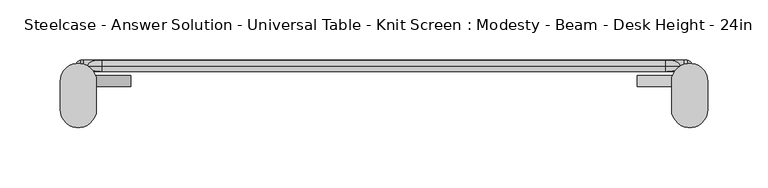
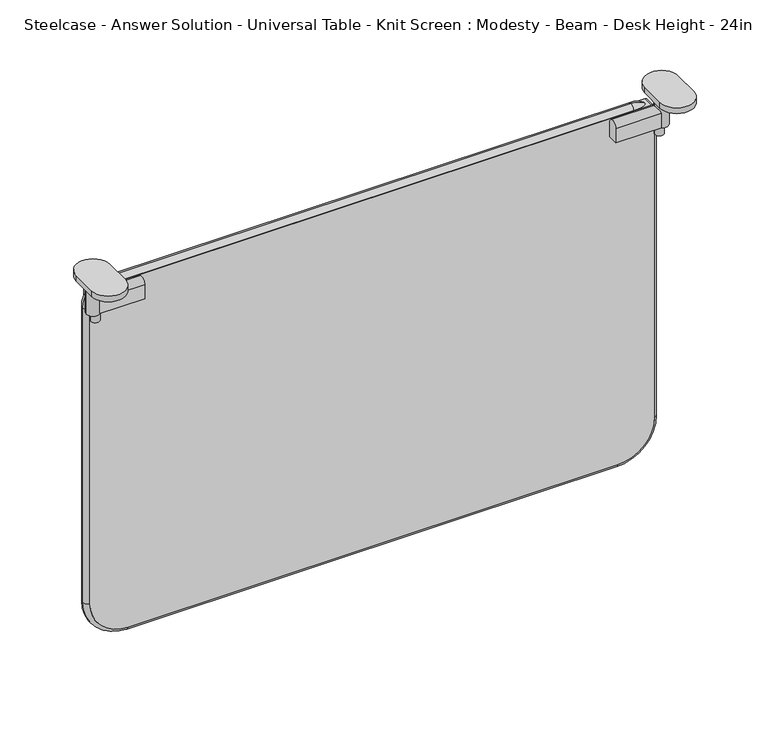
"""IFC4 building model written with IfcOpenShell, lengths in millimetres: furniture geometry, Steelcase - Answer Solution - Universal Table - Knit Screen : Modesty - Beam - Desk Height - 24in."""

from ifc_helpers import new_model, si_unit, point, frame, frame_2d, origin, place, context, project, spatial, polyline, circle_curve, ellipse_curve, trimmed, segment, composite_curve, outline, extrude, source, transform, mapped, element, save
from ifc_brep_helpers import plane_surface, cylinder_surface, revolved_surface, advanced_brep


def steelcase_answer_solution_universal_table_knit_screen_600d1019(model_context):
    return source(origin(), model_context, "Body", "SolidModel", [
        extrude(outline(composite_curve([segment(polyline([(-29.128946, 557.1716837), (-29.128946, 570.5329841)]), True, "CONTINUOUS"), segment(trimmed(circle_curve(frame_2d((-24.4350465, 570.5329841)), 4.6938995), [point((-29.128946, 570.5329841))], [point((-19.7411469, 570.5329841))], False, "CARTESIAN"), True, "CONTINUOUS"), segment(polyline([(-19.7411469, 570.5329841), (-19.7411469, 557.1716837), (-29.128946, 557.1716837)]), True, "CONTINUOUS")], self_intersect=False)), frame((511.8167228, 0.0, 0.0), z_axis=(1.0, 0.0, 0.0), x_axis=(0.0, 1.0, 0.0)), (0.0, 0.0, 1.0), 43.5285515),
        extrude(outline(composite_curve([segment(trimmed(circle_curve(frame_2d((553.4143327, -24.4352196)), 3.96875), [point((557.3830827, -24.4352196))], [point((549.4455827, -24.4352196))], False, "CARTESIAN"), True, "CONTINUOUS"), segment(trimmed(circle_curve(frame_2d((553.4143327, -24.4352196)), 3.96875), [point((549.4455827, -24.4352196))], [point((557.3830827, -24.4352196))], False, "CARTESIAN"), True, "CONTINUOUS")], self_intersect=False)), frame((0.0, 0.0, 549.0915626), z_axis=(0.0, 0.0, 1.0), x_axis=(1.0, 0.0, 0.0)), (0.0, 0.0, 1.0), 8.0801211),
        extrude(outline(composite_curve([segment(trimmed(circle_curve(frame_2d((555.3452743, -24.4352196)), 5.8800133), [point((561.2252876, -24.4352196))], [point((549.465261, -24.4352196))], False, "CARTESIAN"), True, "CONTINUOUS"), segment(trimmed(circle_curve(frame_2d((555.3452743, -24.4352196)), 5.8800133), [point((549.465261, -24.4352196))], [point((561.2252876, -24.4352196))], False, "CARTESIAN"), True, "CONTINUOUS")], self_intersect=False)), frame((0.0, 0.0, 557.1716837), z_axis=(0.0, 0.0, 1.0), x_axis=(1.0, 0.0, 0.0)), (0.0, 0.0, 1.0), 34.3007611),
        extrude(outline(composite_curve([segment(polyline([(570.401332, -24.6349615), (570.401332, -48.0866189)]), True, "CONTINUOUS"), segment(trimmed(circle_curve(frame_2d((555.345565, -48.0866189)), 15.0557671), [point((570.401332, -48.0866189))], [point((540.2897979, -48.0866189))], False, "CARTESIAN"), True, "CONTINUOUS"), segment(polyline([(540.2897979, -48.0866189), (540.2897979, -24.6349615)]), True, "CONTINUOUS"), segment(trimmed(circle_curve(frame_2d((555.345565, -24.6349615)), 15.0557671), [point((540.2897979, -24.6349615))], [point((570.401332, -24.6349615))], False, "CARTESIAN"), True, "CONTINUOUS")], self_intersect=False)), frame((0.0, 0.0, 591.4724448), z_axis=(0.0, 0.0, 1.0), x_axis=(1.0, 0.0, 0.0)), (0.0, 0.0, 1.0), 5.4275552),
        extrude(outline(composite_curve([segment(polyline([(-29.128946, 557.1716837), (-29.128946, 570.5329841)]), True, "CONTINUOUS"), segment(trimmed(circle_curve(frame_2d((-24.4350465, 570.5329841)), 4.6938995), [point((-29.128946, 570.5329841))], [point((-19.7411469, 570.5329841))], False, "CARTESIAN"), True, "CONTINUOUS"), segment(polyline([(-19.7411469, 570.5329841), (-19.7411469, 557.1716837), (-29.128946, 557.1716837)]), True, "CONTINUOUS")], self_intersect=False)), frame((47.6108911, 0.0, 0.0), z_axis=(1.0, 0.0, 0.0), x_axis=(0.0, 1.0, 0.0)), (0.0, 0.0, 1.0), 43.5285515),
        extrude(outline(composite_curve([segment(trimmed(circle_curve(frame_2d((49.5418327, -24.4352196)), 3.96875), [point((45.5730827, -24.4352196))], [point((53.5105827, -24.4352196))], False, "CARTESIAN"), True, "CONTINUOUS"), segment(trimmed(circle_curve(frame_2d((49.5418327, -24.4352196)), 3.96875), [point((53.5105827, -24.4352196))], [point((45.5730827, -24.4352196))], False, "CARTESIAN"), True, "CONTINUOUS")], self_intersect=False)), frame((0.0, 0.0, 549.0915626), z_axis=(0.0, 0.0, 1.0), x_axis=(1.0, 0.0, 0.0)), (0.0, 0.0, 1.0), 8.0801211),
        extrude(outline(composite_curve([segment(trimmed(circle_curve(frame_2d((47.6108911, -24.4352196)), 5.8800133), [point((41.7308778, -24.4352196))], [point((53.4909043, -24.4352196))], False, "CARTESIAN"), True, "CONTINUOUS"), segment(trimmed(circle_curve(frame_2d((47.6108911, -24.4352196)), 5.8800133), [point((53.4909043, -24.4352196))], [point((41.7308778, -24.4352196))], False, "CARTESIAN"), True, "CONTINUOUS")], self_intersect=False)), frame((0.0, 0.0, 557.1716837), z_axis=(0.0, 0.0, 1.0), x_axis=(1.0, 0.0, 0.0)), (0.0, 0.0, 1.0), 34.3007611),
        extrude(outline(composite_curve([segment(trimmed(circle_curve(frame_2d((47.6106004, -24.6349615)), 15.0557671), [point((32.5548333, -24.6349615))], [point((62.6663674, -24.6349615))], False, "CARTESIAN"), True, "CONTINUOUS"), segment(polyline([(62.6663674, -24.6349615), (62.6663674, -48.0866189)]), True, "CONTINUOUS"), segment(trimmed(circle_curve(frame_2d((47.6106004, -48.0866189)), 15.0557671), [point((62.6663674, -48.0866189))], [point((32.5548333, -48.0866189))], False, "CARTESIAN"), True, "CONTINUOUS"), segment(polyline([(32.5548333, -48.0866189), (32.5548333, -24.6349615)]), True, "CONTINUOUS")], self_intersect=False)), frame((0.0, 0.0, 591.4724448), z_axis=(0.0, 0.0, 1.0), x_axis=(1.0, 0.0, 0.0)), (0.0, 0.0, 1.0), 5.4275552),
        extrude(outline(composite_curve([segment(trimmed(circle_curve(frame_2d((275.3734529, 520.3969049)), 33.0004615), [point((242.3729913, 520.3969049))], [point((275.3734529, 553.3973664))], False, "CARTESIAN"), True, "CONTINUOUS"), segment(polyline([(275.3734529, 553.3973664), (568.7143507, 553.3973664)]), True, "CONTINUOUS"), segment(trimmed(circle_curve(frame_2d((568.7143507, 550.5924906)), 2.8048758), [point((568.7143507, 553.3973664))], [point((571.5192266, 550.5924906))], False, "CARTESIAN"), True, "CONTINUOUS"), segment(polyline([(571.5192266, 550.5924906), (571.5192266, 51.8743664)]), True, "CONTINUOUS"), segment(trimmed(circle_curve(frame_2d((569.2036591, 51.8743664)), 2.3155675), [point((571.5192266, 51.8743664))], [point((569.2036591, 49.5587989))], False, "CARTESIAN"), True, "CONTINUOUS"), segment(polyline([(569.2036591, 49.5587989), (276.2900738, 49.5587989)]), True, "CONTINUOUS"), segment(trimmed(circle_curve(frame_2d((276.2900738, 83.4758814)), 33.9170825), [point((276.2900738, 49.5587989))], [point((242.3729913, 83.4758814))], False, "CARTESIAN"), True, "CONTINUOUS"), segment(polyline([(242.3729913, 83.4758814), (242.3729913, 520.3969049)]), True, "CONTINUOUS")], self_intersect=False)), frame((0.0, -16.5783031, 0.0), z_axis=(0.0, 1.0, 0.0), x_axis=(0.0, 0.0, 1.0)), (0.0, 0.0, 1.0), 9.6878455),
        advanced_brep(
        [(45.5730839, -11.7343804, 554.0906591), (66.9873664, -11.7343804, 575.5049416), (66.9873664, -6.8904577, 571.5192266), (49.5587989, -6.8904577, 554.0906591), (49.5587989, -16.5783031, 554.0906591), (66.9873664, -16.5783031, 571.5192266), (49.5587989, -6.8904577, 276.2900738), (45.5730839, -11.7343804, 276.2900738), (49.5587989, -16.5783031, 276.2900738), (83.4758814, -11.7343804, 238.3872763), (83.4758814, -6.8904577, 242.3729913), (83.4758814, -16.5783031, 242.3729913), (520.3969049, -6.8904577, 242.3729913), (520.3969049, -11.7343804, 238.3872763), (520.3969049, -16.5783031, 242.3729913), (557.3830815, -11.7343804, 275.3734529), (553.3973664, -6.8904577, 275.3734529), (553.3973664, -16.5783031, 275.3734529), (553.3973664, -6.8904577, 553.6013507), (557.3830815, -11.7343804, 553.6013507), (553.3973664, -16.5783031, 553.6013507), (535.4794906, -11.7343804, 575.5049416), (535.4794906, -6.8904577, 571.5192266), (535.4794906, -16.5783031, 571.5192266)],
        [
            (0, 1, circle_curve(frame((66.9873664, -11.7343804, 554.0906591), z_axis=(0.0, 1.0, 0.0), x_axis=(0.0, 0.0, 1.0)), 21.4142825)),
            (1, 2, circle_curve(frame((66.9873664, -11.7343804, 570.5686238), z_axis=(-1.0, 0.0, 0.0), x_axis=(0.0, 0.0, 1.0)), 4.9363178)),
            (2, 3, circle_curve(frame((66.9873664, -6.8904577, 554.0906591), z_axis=(0.0, -1.0, 0.0), x_axis=(0.0, 0.0, 1.0)), 17.4285675)),
            (3, 0, circle_curve(frame((50.5094016, -11.7343804, 554.0906591), z_axis=(0.0, 0.0, 1.0), x_axis=(-1.0, 0.0, 0.0)), 4.9363178)),
            (4, 5, circle_curve(frame((66.9873664, -16.5783031, 554.0906591), z_axis=(0.0, 1.0, 0.0), x_axis=(0.0, 0.0, 1.0)), 17.4285675)),
            (5, 1, circle_curve(frame((66.9873664, -11.7343804, 570.5686238), z_axis=(-1.0, 0.0, 0.0), x_axis=(0.0, 0.0, 1.0)), 4.9363178)),
            (0, 4, circle_curve(frame((50.5094016, -11.7343804, 554.0906591), z_axis=(0.0, 0.0, 1.0), x_axis=(-1.0, 0.0, 0.0)), 4.9363178)),
            (2, 5),
            (4, 3),
            (3, 6),
            (6, 7, circle_curve(frame((50.5094016, -11.7343804, 276.2900738), z_axis=(0.0, 0.0, 1.0), x_axis=(-1.0, 0.0, 0.0)), 4.9363178)),
            (7, 0),
            (7, 8, circle_curve(frame((50.5094016, -11.7343804, 276.2900738), z_axis=(0.0, 0.0, 1.0), x_axis=(-1.0, 0.0, 0.0)), 4.9363178)),
            (8, 4),
            (8, 6),
            (9, 7, circle_curve(frame((83.4758814, -11.7343804, 276.2900738), z_axis=(0.0, 1.0, 0.0), x_axis=(-1.0, 0.0, 0.0)), 37.9027975)),
            (6, 10, circle_curve(frame((83.4758814, -6.8904577, 276.2900738), z_axis=(0.0, -1.0, 0.0), x_axis=(-1.0, 0.0, 0.0)), 33.9170825)),
            (10, 9, circle_curve(frame((83.4758814, -11.7343804, 243.323594), z_axis=(-1.0, 0.0, 0.0), x_axis=(0.0, 0.0, -1.0)), 4.9363178)),
            (11, 8, circle_curve(frame((83.4758814, -16.5783031, 276.2900738), z_axis=(0.0, 1.0, 0.0), x_axis=(-1.0, 0.0, 0.0)), 33.9170825)),
            (9, 11, circle_curve(frame((83.4758814, -11.7343804, 243.323594), z_axis=(-1.0, 0.0, 0.0), x_axis=(0.0, 0.0, -1.0)), 4.9363178)),
            (11, 10),
            (10, 12),
            (12, 13, circle_curve(frame((520.3969049, -11.7343804, 243.323594), z_axis=(-1.0, 0.0, 0.0), x_axis=(0.0, 0.0, -1.0)), 4.9363178)),
            (13, 9),
            (13, 14, circle_curve(frame((520.3969049, -11.7343804, 243.323594), z_axis=(-1.0, 0.0, 0.0), x_axis=(0.0, 0.0, -1.0)), 4.9363178)),
            (14, 11),
            (14, 12),
            (15, 13, circle_curve(frame((520.3969049, -11.7343804, 275.3734529), z_axis=(0.0, 1.0, 0.0), x_axis=(0.0, 0.0, -1.0)), 36.9861766)),
            (12, 16, circle_curve(frame((520.3969049, -6.8904577, 275.3734529), z_axis=(0.0, -1.0, 0.0), x_axis=(0.0, 0.0, -1.0)), 33.0004615)),
            (16, 15, circle_curve(frame((552.4467637, -11.7343804, 275.3734529), z_axis=(0.0, 0.0, -1.0), x_axis=(1.0, 0.0, 0.0)), 4.9363178)),
            (17, 14, circle_curve(frame((520.3969049, -16.5783031, 275.3734529), z_axis=(0.0, 1.0, 0.0), x_axis=(0.0, 0.0, -1.0)), 33.0004615)),
            (15, 17, circle_curve(frame((552.4467637, -11.7343804, 275.3734529), z_axis=(0.0, 0.0, -1.0), x_axis=(1.0, 0.0, 0.0)), 4.9363178)),
            (17, 16),
            (16, 18),
            (18, 19, circle_curve(frame((552.4467637, -11.7343804, 553.6013507), z_axis=(0.0, 0.0, -1.0), x_axis=(1.0, 0.0, 0.0)), 4.9363178)),
            (19, 15),
            (19, 20, circle_curve(frame((552.4467637, -11.7343804, 553.6013507), z_axis=(0.0, 0.0, -1.0), x_axis=(1.0, 0.0, 0.0)), 4.9363178)),
            (20, 17),
            (20, 18),
            (21, 19, circle_curve(frame((535.4794906, -11.7343804, 553.6013507), z_axis=(0.0, 1.0, 0.0), x_axis=(1.0, 0.0, 0.0)), 21.9035909)),
            (18, 22, circle_curve(frame((535.4794906, -6.8904577, 553.6013507), z_axis=(0.0, -1.0, 0.0), x_axis=(1.0, 0.0, 0.0)), 17.9178758)),
            (22, 21, circle_curve(frame((535.4794906, -11.7343804, 570.5686238), z_axis=(1.0, 0.0, 0.0), x_axis=(0.0, 0.0, 1.0)), 4.9363178)),
            (23, 20, circle_curve(frame((535.4794906, -16.5783031, 553.6013507), z_axis=(0.0, 1.0, 0.0), x_axis=(1.0, 0.0, 0.0)), 17.9178758)),
            (21, 23, circle_curve(frame((535.4794906, -11.7343804, 570.5686238), z_axis=(1.0, 0.0, 0.0), x_axis=(0.0, 0.0, 1.0)), 4.9363178)),
            (23, 22),
            (22, 2),
            (1, 21),
            (5, 23),
        ],
        [
            revolved_surface(trimmed(ellipse_curve(frame((66.9873664, -11.7343804, 570.5686238), z_axis=(1.0, 0.0, 0.0), x_axis=(0.0, 0.0, 1.0)), 4.9363178, 4.9363178), [point((66.9873664, -6.8904577, 571.5192266))], [point((66.9873664, -11.7343804, 575.5049416))], True, "CARTESIAN"), (66.9873664, -11.7343804, 554.0906591), (0.0, -1.0, 0.0)),
            revolved_surface(trimmed(ellipse_curve(frame((66.9873664, -11.7343804, 570.5686238), z_axis=(1.0, 0.0, 0.0), x_axis=(0.0, 0.0, 1.0)), 4.9363178, 4.9363178), [point((66.9873664, -11.7343804, 575.5049416))], [point((66.9873664, -16.5783031, 571.5192266))], True, "CARTESIAN"), (66.9873664, -11.7343804, 554.0906591), (0.0, -1.0, 0.0)),
            revolved_surface(polyline([(66.9873664, -16.5783031, 571.5192266), (66.9873664, -6.8904577, 571.5192266)]), (66.9873664, -11.7343804, 554.0906591), (0.0, -1.0, 0.0)),
            cylinder_surface(frame((50.5094016, -11.7343804, 554.0906591), z_axis=(0.0, 0.0, 1.0), x_axis=(-1.0, 0.0, 0.0)), 4.9363178),
            plane_surface(frame((49.5587989, -16.5783031, 554.0906591), z_axis=(1.0, 0.0, 0.0), x_axis=(0.0, 0.0, -1.0))),
            revolved_surface(trimmed(ellipse_curve(frame((50.5094016, -11.7343804, 276.2900738), z_axis=(0.0, 0.0, 1.0), x_axis=(-1.0, 0.0, 0.0)), 4.9363178, 4.9363178), [point((49.5587989, -6.8904577, 276.2900738))], [point((45.5730839, -11.7343804, 276.2900738))], True, "CARTESIAN"), (83.4758814, -11.7343804, 276.2900738), (0.0, -1.0, 0.0)),
            revolved_surface(trimmed(ellipse_curve(frame((50.5094016, -11.7343804, 276.2900738), z_axis=(0.0, 0.0, 1.0), x_axis=(-1.0, 0.0, 0.0)), 4.9363178, 4.9363178), [point((45.5730839, -11.7343804, 276.2900738))], [point((49.5587989, -16.5783031, 276.2900738))], True, "CARTESIAN"), (83.4758814, -11.7343804, 276.2900738), (0.0, -1.0, 0.0)),
            revolved_surface(polyline([(49.558798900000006, -16.5783031, 276.2900738), (49.558798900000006, -6.8904577, 276.2900738)]), (83.4758814, -11.7343804, 276.2900738), (0.0, -1.0, 0.0)),
            cylinder_surface(frame((83.4758814, -11.7343804, 243.323594), z_axis=(-1.0, 0.0, 0.0), x_axis=(0.0, 0.0, -1.0)), 4.9363178),
            plane_surface(frame((83.4758814, -16.5783031, 242.3729913), z_axis=(0.0, 0.0, 1.0), x_axis=(1.0, 0.0, 0.0))),
            revolved_surface(trimmed(ellipse_curve(frame((520.3969049, -11.7343804, 243.323594), z_axis=(-1.0, 0.0, 0.0), x_axis=(0.0, 0.0, -1.0)), 4.9363178, 4.9363178), [point((520.3969049, -6.8904577, 242.3729913))], [point((520.3969049, -11.7343804, 238.3872763))], True, "CARTESIAN"), (520.3969049, -11.7343804, 275.3734529), (0.0, -1.0, 0.0)),
            revolved_surface(trimmed(ellipse_curve(frame((520.3969049, -11.7343804, 243.323594), z_axis=(-1.0, 0.0, 0.0), x_axis=(0.0, 0.0, -1.0)), 4.9363178, 4.9363178), [point((520.3969049, -11.7343804, 238.3872763))], [point((520.3969049, -16.5783031, 242.3729913))], True, "CARTESIAN"), (520.3969049, -11.7343804, 275.3734529), (0.0, -1.0, 0.0)),
            revolved_surface(polyline([(520.3969049, -16.5783031, 242.37299140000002), (520.3969049, -6.8904577, 242.37299140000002)]), (520.3969049, -11.7343804, 275.3734529), (0.0, -1.0, 0.0)),
            cylinder_surface(frame((552.4467637, -11.7343804, 275.3734529), z_axis=(0.0, 0.0, -1.0), x_axis=(1.0, 0.0, 0.0)), 4.9363178),
            plane_surface(frame((553.3973664, -16.5783031, 275.3734529), z_axis=(-1.0, 0.0, 0.0), x_axis=(0.0, 0.0, 1.0))),
            revolved_surface(trimmed(ellipse_curve(frame((552.4467637, -11.7343804, 553.6013507), z_axis=(0.0, 0.0, -1.0), x_axis=(1.0, 0.0, 0.0)), 4.9363178, 4.9363178), [point((553.3973664, -6.8904577, 553.6013507))], [point((557.3830815, -11.7343804, 553.6013507))], True, "CARTESIAN"), (535.4794906, -11.7343804, 553.6013507), (0.0, -1.0, 0.0)),
            revolved_surface(trimmed(ellipse_curve(frame((552.4467637, -11.7343804, 553.6013507), z_axis=(0.0, 0.0, -1.0), x_axis=(1.0, 0.0, 0.0)), 4.9363178, 4.9363178), [point((557.3830815, -11.7343804, 553.6013507))], [point((553.3973664, -16.5783031, 553.6013507))], True, "CARTESIAN"), (535.4794906, -11.7343804, 553.6013507), (0.0, -1.0, 0.0)),
            revolved_surface(polyline([(553.3973664, -16.5783031, 553.6013507), (553.3973664, -6.8904577, 553.6013507)]), (535.4794906, -11.7343804, 553.6013507), (0.0, -1.0, 0.0)),
            cylinder_surface(frame((535.4794906, -11.7343804, 570.5686238), z_axis=(1.0, 0.0, 0.0), x_axis=(0.0, 0.0, 1.0)), 4.9363178),
            plane_surface(frame((535.4794906, -16.5783031, 571.5192266), z_axis=(0.0, 0.0, -1.0), x_axis=(-1.0, 0.0, 0.0))),
        ],
        [
            (0, [[1, 2, 3, 4]]),
            (1, [[5, 6, -1, 7]]),
            (2, [[-3, 8, -5, 9]]),
            (3, [[-4, 10, 11, 12]]),
            (3, [[-7, -12, 13, 14]]),
            (4, [[-9, -14, 15, -10]]),
            (5, [[16, -11, 17, 18]]),
            (6, [[19, -13, -16, 20]]),
            (7, [[-17, -15, -19, 21]]),
            (8, [[-18, 22, 23, 24]]),
            (8, [[-20, -24, 25, 26]]),
            (9, [[-21, -26, 27, -22]]),
            (10, [[28, -23, 29, 30]]),
            (11, [[31, -25, -28, 32]]),
            (12, [[-29, -27, -31, 33]]),
            (13, [[-30, 34, 35, 36]]),
            (13, [[-32, -36, 37, 38]]),
            (14, [[-33, -38, 39, -34]]),
            (15, [[40, -35, 41, 42]]),
            (16, [[43, -37, -40, 44]]),
            (17, [[-41, -39, -43, 45]]),
            (18, [[-42, 46, -2, 47]]),
            (18, [[-44, -47, -6, 48]]),
            (19, [[-45, -48, -8, -46]]),
        ],
    ),
    ])


if __name__ == "__main__":
    model = new_model("IFC4")
    model_context = context("Model", 3, world=origin())
    ifc_project = project(units=[si_unit("LENGTHUNIT", "METRE", prefix="MILLI")], contexts=[model_context])
    site = spatial("IfcSite", under=ifc_project)
    building = spatial("IfcBuilding", under=site)
    placement = place(None, origin())
    steelcase_answer_solution_universal_table_knit_screen_shape = steelcase_answer_solution_universal_table_knit_screen_600d1019(model_context)
    element("IfcFurniture", 1, ObjectType="Steelcase - Answer Solution - Universal Table - Knit Screen : Modesty - Beam - Desk Height - 24in", at=placement, inside=building, context=model_context, shape_type="MappedRepresentation", body=[
        mapped(steelcase_answer_solution_universal_table_knit_screen_shape, transform((0.0, 0.0, 0.0), x_axis=(1.0, 0.0, 0.0), y_axis=(0.0, 1.0, 0.0), z_axis=(0.0, 0.0, 1.0))),
    ])
    save(model, "model.ifc")
